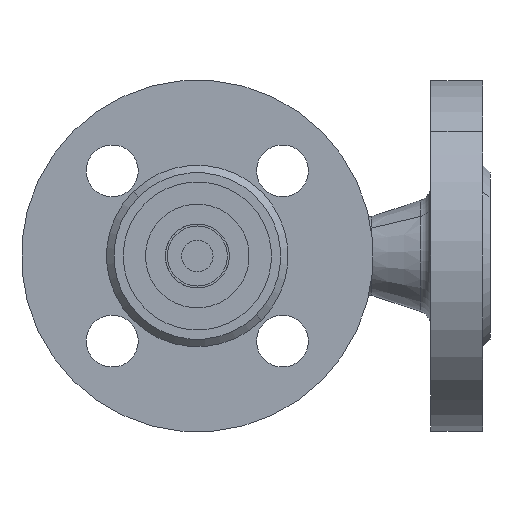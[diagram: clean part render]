
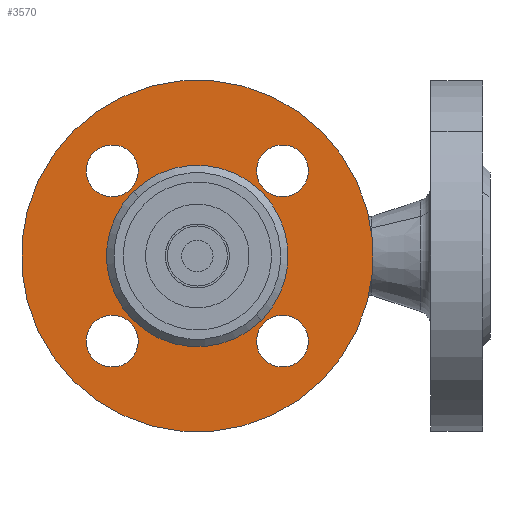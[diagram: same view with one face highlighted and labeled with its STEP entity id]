
A CAD part, front view. The second image highlights one B-rep face of the part: STEP entity #3570.
In plain terms, the highlighted planar face has unit normal (0, -1, 0).
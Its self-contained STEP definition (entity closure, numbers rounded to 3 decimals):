
#657 = EDGE_LOOP ( 'NONE', ( #22412, #20763 ) ) ;
#692 = EDGE_CURVE ( 'NONE', #10946, #9843, #19593, .T. ) ;
#790 = CARTESIAN_POINT ( 'NONE',  ( -24.5, 2., 0. ) ) ;
#1109 = ORIENTED_EDGE ( 'NONE', *, *, #14685, .T. ) ;
#1151 = CIRCLE ( 'NONE', #1152, 7. ) ;
#1152 = AXIS2_PLACEMENT_3D ( 'NONE', #1153, #1154, #1155 ) ;
#1153 = CARTESIAN_POINT ( 'NONE',  ( 0., 2., -32.5 ) ) ;
#1154 = DIRECTION ( 'NONE',  ( 0., 1., 0. ) ) ;
#1155 = DIRECTION ( 'NONE',  ( -1., 0., 0. ) ) ;
#1194 = CIRCLE ( 'NONE', #1195, 24.5 ) ;
#1195 = AXIS2_PLACEMENT_3D ( 'NONE', #1196, #1197, #1198 ) ;
#1196 = CARTESIAN_POINT ( 'NONE',  ( 0., 2., 0. ) ) ;
#1197 = DIRECTION ( 'NONE',  ( 0., 1., 0. ) ) ;
#1198 = DIRECTION ( 'NONE',  ( -1., 0., 0. ) ) ;
#1408 = CIRCLE ( 'NONE', #1409, 7. ) ;
#1409 = AXIS2_PLACEMENT_3D ( 'NONE', #1410, #1411, #1429 ) ;
#1410 = CARTESIAN_POINT ( 'NONE',  ( -32.5, 2., 0. ) ) ;
#1411 = DIRECTION ( 'NONE',  ( 0., 1., 0. ) ) ;
#1429 = DIRECTION ( 'NONE',  ( -1., 0., 0. ) ) ;
#17873 = CARTESIAN_POINT ( 'NONE',  ( 24.5, 2., 0. ) ) ;
#17971 = VERTEX_POINT ( 'NONE', #11009 ) ;
#2068 = EDGE_CURVE ( 'NONE', #14239, #14467, #1151, .T. ) ;
#18658 = EDGE_CURVE ( 'NONE', #3899, #4129, #12114, .T. ) ;
#2756 = ORIENTED_EDGE ( 'NONE', *, *, #2068, .T. ) ;
#19344 = VERTEX_POINT ( 'NONE', #13145 ) ;
#19345 = ORIENTED_EDGE ( 'NONE', *, *, #18658, .T. ) ;
#2996 = VERTEX_POINT ( 'NONE', #3571 ) ;
#3215 = VERTEX_POINT ( 'NONE', #3730 ) ;
#19593 = CIRCLE ( 'NONE', #19594, 24.5 ) ;
#19594 = AXIS2_PLACEMENT_3D ( 'NONE', #19595, #19596, #19597 ) ;
#19595 = CARTESIAN_POINT ( 'NONE',  ( 0., 2., 0. ) ) ;
#19596 = DIRECTION ( 'NONE',  ( 0., 1., 0. ) ) ;
#19597 = DIRECTION ( 'NONE',  ( -1., 0., 0. ) ) ;
#3323 = EDGE_LOOP ( 'NONE', ( #2756, #1109 ) ) ;
#19760 = VERTEX_POINT ( 'NONE', #13521 ) ;
#3434 = EDGE_CURVE ( 'NONE', #3215, #2996, #3875, .T. ) ;
#3570 = ADVANCED_FACE ( 'NONE', ( #4043, #4044, #4045, #4046, #4047, #4048 ), #4049, .F. ) ;
#3571 = CARTESIAN_POINT ( 'NONE',  ( 47.5, 2., 0. ) ) ;
#3730 = CARTESIAN_POINT ( 'NONE',  ( -47.5, 2., 0. ) ) ;
#20176 = EDGE_CURVE ( 'NONE', #19760, #19344, #13740, .T. ) ;
#3875 = CIRCLE ( 'NONE', #3876, 47.5 ) ;
#3876 = AXIS2_PLACEMENT_3D ( 'NONE', #3877, #3882, #3883 ) ;
#3877 = CARTESIAN_POINT ( 'NONE',  ( 0., 2., 0. ) ) ;
#3882 = DIRECTION ( 'NONE',  ( 0., 1., 0. ) ) ;
#3883 = DIRECTION ( 'NONE',  ( -1., 0., 0. ) ) ;
#3899 = VERTEX_POINT ( 'NONE', #4305 ) ;
#20310 = EDGE_LOOP ( 'NONE', ( #19345, #8117 ) ) ;
#4043 = FACE_BOUND ( 'NONE', #3323, .T. ) ;
#4044 = FACE_BOUND ( 'NONE', #657, .T. ) ;
#4045 = FACE_BOUND ( 'NONE', #20310, .T. ) ;
#4046 = FACE_BOUND ( 'NONE', #7873, .T. ) ;
#4047 = FACE_OUTER_BOUND ( 'NONE', #6211, .T. ) ;
#4048 = FACE_BOUND ( 'NONE', #4760, .T. ) ;
#4049 = PLANE ( 'NONE',  #4050 ) ;
#4050 = AXIS2_PLACEMENT_3D ( 'NONE', #4051, #4052, #4053 ) ;
#4051 = CARTESIAN_POINT ( 'NONE',  ( 24.5, 2., 0. ) ) ;
#4052 = DIRECTION ( 'NONE',  ( 0., 1., 0. ) ) ;
#4053 = DIRECTION ( 'NONE',  ( -1., 0., 0. ) ) ;
#4129 = VERTEX_POINT ( 'NONE', #4492 ) ;
#4239 = ORIENTED_EDGE ( 'NONE', *, *, #10065, .T. ) ;
#4305 = CARTESIAN_POINT ( 'NONE',  ( -7., 2., 32.5 ) ) ;
#4348 = EDGE_CURVE ( 'NONE', #4129, #3899, #4688, .T. ) ;
#20763 = ORIENTED_EDGE ( 'NONE', *, *, #20176, .T. ) ;
#4492 = CARTESIAN_POINT ( 'NONE',  ( 7., 2., 32.5 ) ) ;
#4688 = CIRCLE ( 'NONE', #4689, 7. ) ;
#4689 = AXIS2_PLACEMENT_3D ( 'NONE', #4690, #4691, #4692 ) ;
#4690 = CARTESIAN_POINT ( 'NONE',  ( 0., 2., 32.5 ) ) ;
#4691 = DIRECTION ( 'NONE',  ( 0., 1., 0. ) ) ;
#4692 = DIRECTION ( 'NONE',  ( -1., 0., 0. ) ) ;
#4760 = EDGE_LOOP ( 'NONE', ( #4239, #13114 ) ) ;
#4995 = ORIENTED_EDGE ( 'NONE', *, *, #14668, .F. ) ;
#5180 = CARTESIAN_POINT ( 'NONE',  ( -7., 2., -32.5 ) ) ;
#21725 = EDGE_CURVE ( 'NONE', #19344, #19760, #1408, .T. ) ;
#5517 = ORIENTED_EDGE ( 'NONE', *, *, #3434, .F. ) ;
#5794 = CARTESIAN_POINT ( 'NONE',  ( 7., 2., -32.5 ) ) ;
#22412 = ORIENTED_EDGE ( 'NONE', *, *, #21725, .T. ) ;
#6211 = EDGE_LOOP ( 'NONE', ( #5517, #4995 ) ) ;
#6453 = ORIENTED_EDGE ( 'NONE', *, *, #8738, .T. ) ;
#6949 = CIRCLE ( 'NONE', #6950, 47.5 ) ;
#6950 = AXIS2_PLACEMENT_3D ( 'NONE', #6951, #6952, #6953 ) ;
#6951 = CARTESIAN_POINT ( 'NONE',  ( 0., 2., 0. ) ) ;
#6952 = DIRECTION ( 'NONE',  ( 0., 1., 0. ) ) ;
#6953 = DIRECTION ( 'NONE',  ( -1., 0., 0. ) ) ;
#6975 = EDGE_CURVE ( 'NONE', #17971, #8512, #9667, .T. ) ;
#7007 = CIRCLE ( 'NONE', #7008, 7. ) ;
#7008 = AXIS2_PLACEMENT_3D ( 'NONE', #7009, #7010, #7011 ) ;
#7009 = CARTESIAN_POINT ( 'NONE',  ( 0., 2., -32.5 ) ) ;
#7010 = DIRECTION ( 'NONE',  ( 0., 1., 0. ) ) ;
#7011 = DIRECTION ( 'NONE',  ( -1., 0., 0. ) ) ;
#7348 = ORIENTED_EDGE ( 'NONE', *, *, #6975, .T. ) ;
#7873 = EDGE_LOOP ( 'NONE', ( #7348, #6453 ) ) ;
#8117 = ORIENTED_EDGE ( 'NONE', *, *, #4348, .T. ) ;
#8512 = VERTEX_POINT ( 'NONE', #11937 ) ;
#8738 = EDGE_CURVE ( 'NONE', #8512, #17971, #12161, .T. ) ;
#9667 = CIRCLE ( 'NONE', #9668, 7. ) ;
#9668 = AXIS2_PLACEMENT_3D ( 'NONE', #9669, #9670, #9671 ) ;
#9669 = CARTESIAN_POINT ( 'NONE',  ( 32.5, 2., 0. ) ) ;
#9670 = DIRECTION ( 'NONE',  ( 0., 1., 0. ) ) ;
#9671 = DIRECTION ( 'NONE',  ( -1., 0., 0. ) ) ;
#9843 = VERTEX_POINT ( 'NONE', #790 ) ;
#10065 = EDGE_CURVE ( 'NONE', #9843, #10946, #1194, .T. ) ;
#10946 = VERTEX_POINT ( 'NONE', #17873 ) ;
#11009 = CARTESIAN_POINT ( 'NONE',  ( 25.5, 2., 0. ) ) ;
#11937 = CARTESIAN_POINT ( 'NONE',  ( 39.5, 2., 0. ) ) ;
#12114 = CIRCLE ( 'NONE', #12115, 7. ) ;
#12115 = AXIS2_PLACEMENT_3D ( 'NONE', #12116, #12117, #12118 ) ;
#12116 = CARTESIAN_POINT ( 'NONE',  ( 0., 2., 32.5 ) ) ;
#12117 = DIRECTION ( 'NONE',  ( 0., 1., 0. ) ) ;
#12118 = DIRECTION ( 'NONE',  ( -1., 0., 0. ) ) ;
#12161 = CIRCLE ( 'NONE', #12162, 7. ) ;
#12162 = AXIS2_PLACEMENT_3D ( 'NONE', #12163, #12164, #12165 ) ;
#12163 = CARTESIAN_POINT ( 'NONE',  ( 32.5, 2., 0. ) ) ;
#12164 = DIRECTION ( 'NONE',  ( 0., 1., 0. ) ) ;
#12165 = DIRECTION ( 'NONE',  ( -1., 0., 0. ) ) ;
#13114 = ORIENTED_EDGE ( 'NONE', *, *, #692, .T. ) ;
#13145 = CARTESIAN_POINT ( 'NONE',  ( -39.5, 2., 0. ) ) ;
#13521 = CARTESIAN_POINT ( 'NONE',  ( -25.5, 2., 0. ) ) ;
#13740 = CIRCLE ( 'NONE', #13743, 7. ) ;
#13743 = AXIS2_PLACEMENT_3D ( 'NONE', #13744, #13745, #13746 ) ;
#13744 = CARTESIAN_POINT ( 'NONE',  ( -32.5, 2., 0. ) ) ;
#13745 = DIRECTION ( 'NONE',  ( 0., 1., 0. ) ) ;
#13746 = DIRECTION ( 'NONE',  ( -1., 0., 0. ) ) ;
#14239 = VERTEX_POINT ( 'NONE', #5180 ) ;
#14467 = VERTEX_POINT ( 'NONE', #5794 ) ;
#14668 = EDGE_CURVE ( 'NONE', #2996, #3215, #6949, .T. ) ;
#14685 = EDGE_CURVE ( 'NONE', #14467, #14239, #7007, .T. ) ;
